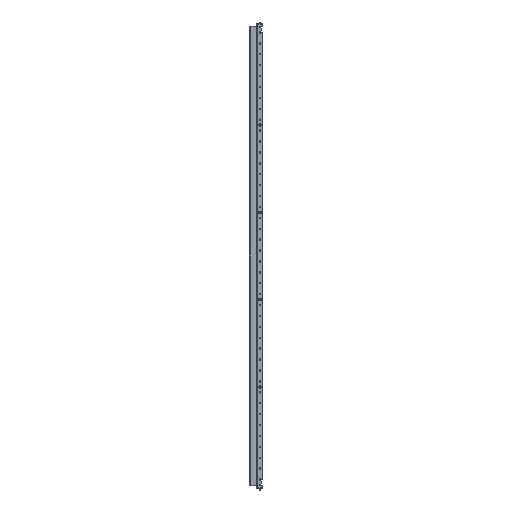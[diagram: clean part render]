
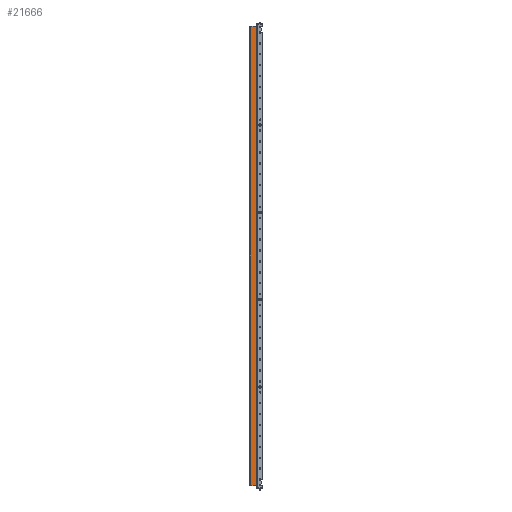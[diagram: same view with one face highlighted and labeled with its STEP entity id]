
A CAD part, front view. The second image highlights one B-rep face of the part: STEP entity #21666.
In plain terms, the highlighted planar face has unit normal (0, -1, 0).
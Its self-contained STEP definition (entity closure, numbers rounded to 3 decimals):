
#1005 = CARTESIAN_POINT ( 'NONE',  ( 0.607, -9.122, 3078. ) ) ;
#1734 = DIRECTION ( 'NONE',  ( 0., 0., 1. ) ) ;
#1841 = VERTEX_POINT ( 'NONE', #8861 ) ;
#2495 = CARTESIAN_POINT ( 'NONE',  ( -26.493, -9.122, 3078. ) ) ;
#3139 = VERTEX_POINT ( 'NONE', #56088 ) ;
#3818 = EDGE_CURVE ( 'NONE', #36002, #3139, #56312, .T. ) ;
#4006 = VERTEX_POINT ( 'NONE', #19797 ) ;
#4559 = VERTEX_POINT ( 'NONE', #2495 ) ;
#4585 = ORIENTED_EDGE ( 'NONE', *, *, #42603, .T. ) ;
#8861 = CARTESIAN_POINT ( 'NONE',  ( 2.307, -9.122, 976. ) ) ;
#9540 = LINE ( 'NONE', #19418, #18272 ) ;
#11882 = VECTOR ( 'NONE', #55722, 1000. ) ;
#11960 = CARTESIAN_POINT ( 'NONE',  ( -31.293, -9.122, 3078. ) ) ;
#12562 = DIRECTION ( 'NONE',  ( 0., 0., -1. ) ) ;
#13263 = CARTESIAN_POINT ( 'NONE',  ( -28.193, -9.122, 3078. ) ) ;
#15241 = VECTOR ( 'NONE', #58265, 1000. ) ;
#15282 = DIRECTION ( 'NONE',  ( -1., 0., 0. ) ) ;
#15835 = VECTOR ( 'NONE', #15282, 1000. ) ;
#16290 = VERTEX_POINT ( 'NONE', #1005 ) ;
#16528 = PLANE ( 'NONE',  #17350 ) ;
#17350 = AXIS2_PLACEMENT_3D ( 'NONE', #35333, #49842, #1734 ) ;
#18272 = VECTOR ( 'NONE', #28359, 1000. ) ;
#19239 = ORIENTED_EDGE ( 'NONE', *, *, #47288, .T. ) ;
#19418 = CARTESIAN_POINT ( 'NONE',  ( -28.193, -9.122, 976. ) ) ;
#19797 = CARTESIAN_POINT ( 'NONE',  ( 2.307, -9.122, 3078. ) ) ;
#21660 = CARTESIAN_POINT ( 'NONE',  ( -29.693, -9.122, 3078. ) ) ;
#21666 = ADVANCED_FACE ( 'NONE', ( #58810 ), #16528, .F. ) ;
#23808 = VERTEX_POINT ( 'NONE', #21660 ) ;
#24957 = ORIENTED_EDGE ( 'NONE', *, *, #37829, .T. ) ;
#26503 = CARTESIAN_POINT ( 'NONE',  ( -28.193, -9.122, 3078. ) ) ;
#26755 = LINE ( 'NONE', #49920, #48873 ) ;
#26792 = ORIENTED_EDGE ( 'NONE', *, *, #38094, .T. ) ;
#26795 = LINE ( 'NONE', #26503, #38541 ) ;
#27025 = CARTESIAN_POINT ( 'NONE',  ( 2.307, -9.122, 3090.5 ) ) ;
#27153 = DIRECTION ( 'NONE',  ( -1., 0., 0. ) ) ;
#28052 = LINE ( 'NONE', #13263, #38033 ) ;
#28359 = DIRECTION ( 'NONE',  ( 1., 0., 0. ) ) ;
#31091 = DIRECTION ( 'NONE',  ( 1., 0., 0. ) ) ;
#31625 = LINE ( 'NONE', #27025, #11882 ) ;
#35105 = LINE ( 'NONE', #11960, #15241 ) ;
#35333 = CARTESIAN_POINT ( 'NONE',  ( -28.193, -9.122, 3090.5 ) ) ;
#35455 = ORIENTED_EDGE ( 'NONE', *, *, #57568, .F. ) ;
#36002 = VERTEX_POINT ( 'NONE', #53159 ) ;
#36297 = LINE ( 'NONE', #55120, #40774 ) ;
#37776 = VERTEX_POINT ( 'NONE', #51491 ) ;
#37829 = EDGE_CURVE ( 'NONE', #16290, #4559, #28052, .T. ) ;
#38033 = VECTOR ( 'NONE', #27153, 1000. ) ;
#38094 = EDGE_CURVE ( 'NONE', #37776, #1841, #26755, .T. ) ;
#38541 = VECTOR ( 'NONE', #45611, 1000. ) ;
#38721 = CARTESIAN_POINT ( 'NONE',  ( -31.293, -9.122, 976. ) ) ;
#39471 = EDGE_CURVE ( 'NONE', #23808, #3139, #36297, .T. ) ;
#39816 = ORIENTED_EDGE ( 'NONE', *, *, #40521, .F. ) ;
#40521 = EDGE_CURVE ( 'NONE', #16290, #4006, #35105, .T. ) ;
#40774 = VECTOR ( 'NONE', #12562, 1000. ) ;
#42603 = EDGE_CURVE ( 'NONE', #36002, #37776, #9540, .T. ) ;
#45611 = DIRECTION ( 'NONE',  ( -1., 0., 0. ) ) ;
#47288 = EDGE_CURVE ( 'NONE', #4559, #23808, #26795, .T. ) ;
#48873 = VECTOR ( 'NONE', #31091, 1000. ) ;
#49388 = ORIENTED_EDGE ( 'NONE', *, *, #3818, .F. ) ;
#49842 = DIRECTION ( 'NONE',  ( 0., 1., 0. ) ) ;
#49920 = CARTESIAN_POINT ( 'NONE',  ( -28.193, -9.122, 976. ) ) ;
#51491 = CARTESIAN_POINT ( 'NONE',  ( 0.607, -9.122, 976. ) ) ;
#53159 = CARTESIAN_POINT ( 'NONE',  ( -26.493, -9.122, 976. ) ) ;
#54214 = ORIENTED_EDGE ( 'NONE', *, *, #39471, .T. ) ;
#55120 = CARTESIAN_POINT ( 'NONE',  ( -29.693, -9.122, 3090.5 ) ) ;
#55722 = DIRECTION ( 'NONE',  ( 0., 0., -1. ) ) ;
#56088 = CARTESIAN_POINT ( 'NONE',  ( -29.693, -9.122, 976. ) ) ;
#56312 = LINE ( 'NONE', #38721, #15835 ) ;
#56772 = EDGE_LOOP ( 'NONE', ( #54214, #49388, #4585, #26792, #35455, #39816, #24957, #19239 ) ) ;
#57568 = EDGE_CURVE ( 'NONE', #4006, #1841, #31625, .T. ) ;
#58265 = DIRECTION ( 'NONE',  ( 1., 0., 0. ) ) ;
#58810 = FACE_OUTER_BOUND ( 'NONE', #56772, .T. ) ;
